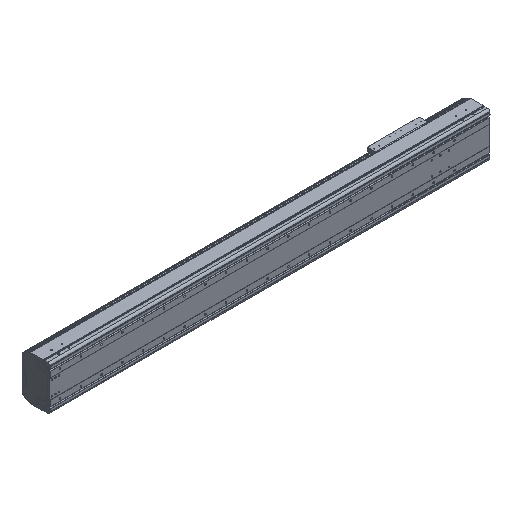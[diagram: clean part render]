
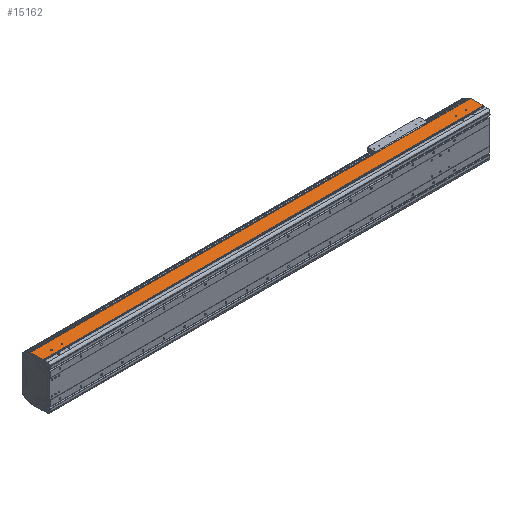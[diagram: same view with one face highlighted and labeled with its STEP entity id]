
A CAD part, isometric view. The second image highlights one B-rep face of the part: STEP entity #15162.
In plain terms, the highlighted planar face has unit normal (0, 0, 1).
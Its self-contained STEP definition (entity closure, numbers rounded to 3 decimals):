
#1832=DIRECTION('',(0.,-1.,0.));
#1833=VECTOR('',#1832,2.55);
#1834=CARTESIAN_POINT('',(0.,34.65,107.));
#1835=LINE('',#1834,#1833);
#2315=DIRECTION('',(1.,0.,0.));
#2316=VECTOR('',#2315,2.);
#2317=CARTESIAN_POINT('',(-2121.,34.65,107.));
#2318=LINE('',#2317,#2316);
#2319=CARTESIAN_POINT('',(-59.5,54.,107.));
#2320=DIRECTION('',(0.,0.,-1.));
#2321=DIRECTION('',(1.,0.,0.));
#2322=AXIS2_PLACEMENT_3D('',#2319,#2320,#2321);
#2324=CARTESIAN_POINT('',(-59.5,54.,107.));
#2325=DIRECTION('',(0.,0.,-1.));
#2326=DIRECTION('',(-1.,0.,0.));
#2327=AXIS2_PLACEMENT_3D('',#2324,#2325,#2326);
#2329=CARTESIAN_POINT('',(-109.5,54.,107.));
#2330=DIRECTION('',(0.,0.,-1.));
#2331=DIRECTION('',(1.,0.,0.));
#2332=AXIS2_PLACEMENT_3D('',#2329,#2330,#2331);
#2334=CARTESIAN_POINT('',(-109.5,54.,107.));
#2335=DIRECTION('',(0.,0.,-1.));
#2336=DIRECTION('',(-1.,0.,0.));
#2337=AXIS2_PLACEMENT_3D('',#2334,#2335,#2336);
#2339=CARTESIAN_POINT('',(-2059.5,54.,107.));
#2340=DIRECTION('',(0.,0.,-1.));
#2341=DIRECTION('',(1.,0.,0.));
#2342=AXIS2_PLACEMENT_3D('',#2339,#2340,#2341);
#2344=CARTESIAN_POINT('',(-2059.5,54.,107.));
#2345=DIRECTION('',(0.,0.,-1.));
#2346=DIRECTION('',(-1.,0.,0.));
#2347=AXIS2_PLACEMENT_3D('',#2344,#2345,#2346);
#2349=CARTESIAN_POINT('',(-2009.5,54.,107.));
#2350=DIRECTION('',(0.,0.,-1.));
#2351=DIRECTION('',(1.,0.,0.));
#2352=AXIS2_PLACEMENT_3D('',#2349,#2350,#2351);
#2354=CARTESIAN_POINT('',(-2009.5,54.,107.));
#2355=DIRECTION('',(0.,0.,-1.));
#2356=DIRECTION('',(-1.,0.,0.));
#2357=AXIS2_PLACEMENT_3D('',#2354,#2355,#2356);
#2359=DIRECTION('',(0.,-1.,0.));
#2360=VECTOR('',#2359,2.55);
#2361=CARTESIAN_POINT('',(-2119.,34.65,107.));
#2362=LINE('',#2361,#2360);
#2363=DIRECTION('',(0.,-1.,0.));
#2364=VECTOR('',#2363,58.85);
#2365=CARTESIAN_POINT('',(-2121.,93.5,107.));
#2366=LINE('',#2365,#2364);
#2367=DIRECTION('',(0.,1.,0.));
#2368=VECTOR('',#2367,58.85);
#2369=CARTESIAN_POINT('',(2.,34.65,107.));
#2370=LINE('',#2369,#2368);
#2371=DIRECTION('',(1.,0.,0.));
#2372=VECTOR('',#2371,2119.);
#2373=CARTESIAN_POINT('',(-2119.,32.1,107.));
#2374=LINE('',#2373,#2372);
#2479=DIRECTION('',(-1.,0.,0.));
#2480=VECTOR('',#2479,2123.);
#2481=CARTESIAN_POINT('',(2.,93.5,107.));
#2482=LINE('',#2481,#2480);
#8333=DIRECTION('',(1.,0.,0.));
#8334=VECTOR('',#8333,2.);
#8335=CARTESIAN_POINT('',(0.,34.65,107.));
#8336=LINE('',#8335,#8334);
#9665=CARTESIAN_POINT('',(-2121.,34.65,107.));
#9666=VERTEX_POINT('',#9665);
#9667=CARTESIAN_POINT('',(-2121.,93.5,107.));
#9668=VERTEX_POINT('',#9667);
#9897=CARTESIAN_POINT('',(-2119.,32.1,107.));
#9898=VERTEX_POINT('',#9897);
#10253=CARTESIAN_POINT('',(0.,32.1,107.));
#10254=VERTEX_POINT('',#10253);
#10255=CARTESIAN_POINT('',(-57.,54.,107.));
#10256=CARTESIAN_POINT('',(-62.,54.,107.));
#10257=VERTEX_POINT('',#10255);
#10258=VERTEX_POINT('',#10256);
#10259=CARTESIAN_POINT('',(-107.,54.,107.));
#10260=CARTESIAN_POINT('',(-112.,54.,107.));
#10261=VERTEX_POINT('',#10259);
#10262=VERTEX_POINT('',#10260);
#10263=CARTESIAN_POINT('',(-2057.,54.,107.));
#10264=CARTESIAN_POINT('',(-2062.,54.,107.));
#10265=VERTEX_POINT('',#10263);
#10266=VERTEX_POINT('',#10264);
#10267=CARTESIAN_POINT('',(-2007.,54.,107.));
#10268=CARTESIAN_POINT('',(-2012.,54.,107.));
#10269=VERTEX_POINT('',#10267);
#10270=VERTEX_POINT('',#10268);
#10986=CARTESIAN_POINT('',(2.,34.65,107.));
#10987=VERTEX_POINT('',#10986);
#10988=CARTESIAN_POINT('',(2.,93.5,107.));
#10989=VERTEX_POINT('',#10988);
#11440=CARTESIAN_POINT('',(0.,34.65,107.));
#11441=VERTEX_POINT('',#11440);
#11520=CARTESIAN_POINT('',(-2119.,34.65,107.));
#11521=VERTEX_POINT('',#11520);
#15120=CARTESIAN_POINT('',(-1059.5,62.8,107.));
#15121=DIRECTION('',(0.,0.,1.));
#15122=DIRECTION('',(0.,-1.,0.));
#15123=AXIS2_PLACEMENT_3D('',#15120,#15121,#15122);
#15124=PLANE('',#15123);
#15125=ORIENTED_EDGE('',*,*,#12606,.F.);
#15126=ORIENTED_EDGE('',*,*,#15115,.F.);
#15127=ORIENTED_EDGE('',*,*,#13235,.F.);
#15129=ORIENTED_EDGE('',*,*,#15128,.F.);
#15130=ORIENTED_EDGE('',*,*,#12343,.F.);
#15132=ORIENTED_EDGE('',*,*,#15131,.F.);
#15133=ORIENTED_EDGE('',*,*,#14723,.T.);
#15135=ORIENTED_EDGE('',*,*,#15134,.F.);
#15136=EDGE_LOOP('',(#15125,#15126,#15127,#15129,#15130,#15132,#15133,#15135));
#15137=FACE_OUTER_BOUND('',#15136,.F.);
#15139=ORIENTED_EDGE('',*,*,#15138,.F.);
#15141=ORIENTED_EDGE('',*,*,#15140,.F.);
#15142=EDGE_LOOP('',(#15139,#15141));
#15143=FACE_BOUND('',#15142,.F.);
#15145=ORIENTED_EDGE('',*,*,#15144,.F.);
#15147=ORIENTED_EDGE('',*,*,#15146,.F.);
#15148=EDGE_LOOP('',(#15145,#15147));
#15149=FACE_BOUND('',#15148,.F.);
#15151=ORIENTED_EDGE('',*,*,#15150,.F.);
#15153=ORIENTED_EDGE('',*,*,#15152,.F.);
#15154=EDGE_LOOP('',(#15151,#15153));
#15155=FACE_BOUND('',#15154,.F.);
#15157=ORIENTED_EDGE('',*,*,#15156,.F.);
#15159=ORIENTED_EDGE('',*,*,#15158,.F.);
#15160=EDGE_LOOP('',(#15157,#15159));
#15161=FACE_BOUND('',#15160,.F.);
#15162=ADVANCED_FACE('',(#15137,#15143,#15149,#15155,#15161),#15124,.T.);
#2323=CIRCLE('',#2322,2.5);
#2328=CIRCLE('',#2327,2.5);
#2333=CIRCLE('',#2332,2.5);
#2338=CIRCLE('',#2337,2.5);
#2343=CIRCLE('',#2342,2.5);
#2348=CIRCLE('',#2347,2.5);
#2353=CIRCLE('',#2352,2.5);
#2358=CIRCLE('',#2357,2.5);
#12343=EDGE_CURVE('',#10987,#10989,#2370,.T.);
#12606=EDGE_CURVE('',#11521,#9898,#2362,.T.);
#13235=EDGE_CURVE('',#9668,#9666,#2366,.T.);
#14723=EDGE_CURVE('',#11441,#10254,#1835,.T.);
#15115=EDGE_CURVE('',#9666,#11521,#2318,.T.);
#15128=EDGE_CURVE('',#10989,#9668,#2482,.T.);
#15131=EDGE_CURVE('',#11441,#10987,#8336,.T.);
#15134=EDGE_CURVE('',#9898,#10254,#2374,.T.);
#15138=EDGE_CURVE('',#10261,#10262,#2333,.T.);
#15140=EDGE_CURVE('',#10262,#10261,#2338,.T.);
#15144=EDGE_CURVE('',#10265,#10266,#2343,.T.);
#15146=EDGE_CURVE('',#10266,#10265,#2348,.T.);
#15150=EDGE_CURVE('',#10269,#10270,#2353,.T.);
#15152=EDGE_CURVE('',#10270,#10269,#2358,.T.);
#15156=EDGE_CURVE('',#10257,#10258,#2323,.T.);
#15158=EDGE_CURVE('',#10258,#10257,#2328,.T.);
